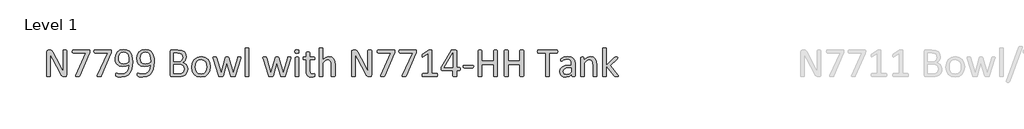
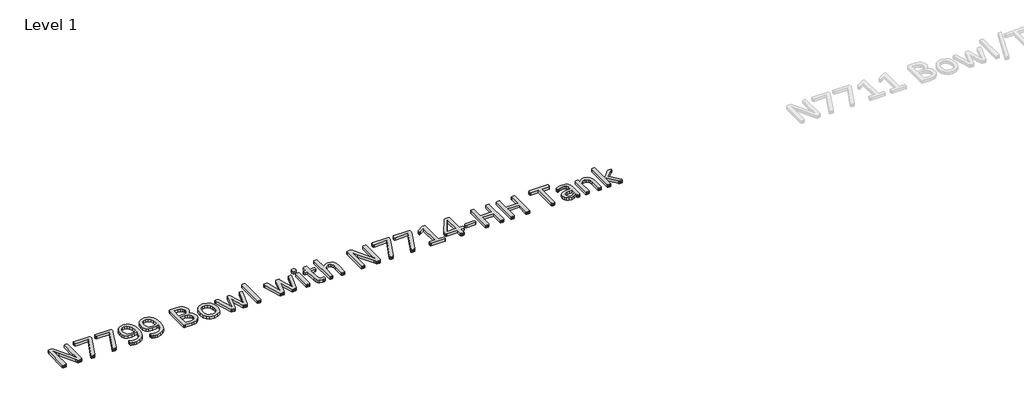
# One storey, part 2 of 3: 1 proxy.
"""IFC4 building model written with IfcOpenShell, lengths in millimetres."""

from ifc_helpers import new_model, si_unit, origin, origin_with_axes, place, context, project, spatial, polyline, outline, extrude, element, save

model = new_model("IFC4")

# Units and contexts
model_context = context("Model", 3, world=origin())
ifc_project = project(units=[si_unit("LENGTHUNIT", "METRE", prefix="MILLI")], contexts=[model_context])

# Site, building, storey
site = spatial("IfcSite", under=ifc_project)
building = spatial("IfcBuilding", under=site)
storey = spatial("IfcBuildingStorey", under=building, Name="Level 1", Elevation=0.0)

# Proxy
placement = place(None, origin())
element("IfcBuildingElementProxy", 1, Name="150MM CALIBRI", ObjectType="150MM CALIBRI", at=placement, inside=storey, context=model_context, shape_type="SweptSolid", body=[
    extrude(outline(polyline([(33502.4142778, -15617.8285664), (33501.6298259, -15621.7059998), (33499.5902511, -15624.3507231), (33496.7662245, -15625.8523881), (33493.6732429, -15626.3006463), (33487.0390216, -15626.3006463), (33481.5926845, -15625.6506719), (33477.1549284, -15623.2749034), (33472.9637143, -15618.5906053), (33468.5707839, -15611.1495192), (33424.1932224, -15526.697675), (33417.2003946, -15512.9809741), (33410.6109991, -15499.0401442), (33410.6109991, -15515.8946524), (33410.6109991, -15533.0181155), (33410.6109991, -15622.6249291), (33410.1179151, -15624.1714198), (33408.4593597, -15625.3144782), (33405.3887911, -15626.0092784), (33400.5251897, -15626.3006463), (33395.6391753, -15626.0092784), (33392.6134325, -15625.3144782), (33391.0221159, -15624.1714198), (33390.5290319, -15622.6249291), (33390.5290319, -15485.5923983), (33393.1737552, -15479.0702416), (33398.956286, -15477.1203184), (33408.8627921, -15477.1203184), (33414.7125616, -15477.7030541), (33418.9261886, -15479.5857385), (33422.5346671, -15483.2390428), (33426.1207327, -15489.1336381), (33460.1883556, -15554.3552057), (33466.2846671, -15566.0099188), (33471.9103075, -15577.1939608), (33477.2894059, -15588.0418092), (33482.5564397, -15598.777593), (33482.3995493, -15579.9507487), (33482.3323106, -15561.1239045), (33482.3323106, -15480.7960356), (33484.4839499, -15478.0840735), (33487.5545186, -15477.3444475), (33492.5525974, -15477.1203184), (33497.2593085, -15477.3444475), (33500.3298772, -15478.0840735), (33501.9211938, -15479.2943707), (33502.4142778, -15617.8285664)])), origin_with_axes(), (0.0, 0.0, 1.0), 15.0),
    extrude(outline(polyline([(33631.5126384, -15485.5475725), (33631.3333352, -15489.2681155), (33630.862664, -15492.4731616), (33630.0557993, -15495.4316657), (33628.8679151, -15498.4574086), (33574.9872798, -15621.8180643), (33573.5528536, -15624.0593553), (33571.3563884, -15625.4265428), (33567.9496261, -15626.121343), (33562.8843085, -15626.3006463), (33556.7431712, -15625.9644526), (33553.560538, -15624.86622), (33552.6864345, -15623.0283614), (33553.5157122, -15620.4284639), (33610.1307224, -15494.3334332), (33538.3645852, -15494.3334332), (33535.0698874, -15492.0473164), (33533.9716548, -15485.68205), (33534.2630227, -15481.8942682), (33535.1371261, -15479.2271319), (33536.5267265, -15477.6358153), (33538.3645852, -15477.1203184), (33625.5059786, -15477.1203184), (33628.3300052, -15477.456512), (33630.1902768, -15478.8236995), (33631.1764448, -15481.44601), (33631.5126384, -15485.5475725)])), origin_with_axes(), (0.0, 0.0, 1.0), 15.0),
    extrude(outline(polyline([(33752.0044417, -15485.5475725), (33751.8251384, -15489.2681155), (33751.3544673, -15492.4731616), (33750.5476026, -15495.4316657), (33749.3597184, -15498.4574086), (33695.4790831, -15621.8180643), (33694.0446569, -15624.0593553), (33691.8481917, -15625.4265428), (33688.4414294, -15626.121343), (33683.3761118, -15626.3006463), (33677.2349745, -15625.9644526), (33674.0523413, -15624.86622), (33673.1782378, -15623.0283614), (33674.0075155, -15620.4284639), (33730.6225257, -15494.3334332), (33658.8563884, -15494.3334332), (33655.5616907, -15492.0473164), (33654.4634581, -15485.68205), (33654.7548259, -15481.8942682), (33655.6289294, -15479.2271319), (33657.0185298, -15477.6358153), (33658.8563884, -15477.1203184), (33745.9977819, -15477.1203184), (33748.8218085, -15477.456512), (33750.68208, -15478.8236995), (33751.6682481, -15481.44601), (33752.0044417, -15485.5475725)])), origin_with_axes(), (0.0, 0.0, 1.0), 15.0),
    extrude(outline(polyline([(33869.6273925, -15545.7934741), (33868.4619212, -15565.5616606), (33864.5172491, -15584.7919373), (33857.0313372, -15602.1171166), (33845.1749079, -15616.2596627), (33828.2083352, -15625.7403235), (33805.3919929, -15629.1694987), (33795.7096159, -15628.4971114), (33787.2151231, -15626.8161432), (33780.8722696, -15624.7093297), (33777.1517265, -15622.4904516), (33775.4707583, -15619.4422959), (33774.9552614, -15614.2873266), (33775.1345647, -15610.1409383), (33775.6500616, -15607.8324086), (33778.2275462, -15606.4428082), (33781.8136118, -15607.3169116), (33787.7082071, -15609.222009), (33796.0458095, -15611.1046934), (33806.7815934, -15611.956384), (33826.1911733, -15607.720344), (33839.4147901, -15596.3345858), (33847.1024181, -15579.7938584), (33849.9040319, -15559.8239557), (33835.3804663, -15566.1668092), (33815.9260606, -15568.9235971), (33795.1492931, -15565.4944219), (33781.6567214, -15556.1258256), (33774.3276999, -15542.0281053), (33772.0864089, -15524.1874291), (33774.9552614, -15505.1588686), (33783.8755995, -15489.2681155), (33799.3180944, -15478.3306155), (33821.7534171, -15474.2514659), (33838.2044929, -15476.6272344), (33850.6436579, -15483.4855848), (33859.563996, -15494.3110202), (33865.4585913, -15508.6776954), (33868.6636374, -15526.0701135), (33869.6273925, -15545.7934741)]), holes=[polyline([(33849.5454253, -15544.583177), (33847.5955022, -15518.2928338), (33841.9026231, -15501.0348932), (33832.6685042, -15491.5318194), (33820.0052102, -15488.5957282), (33807.3419161, -15491.4645807), (33798.7129458, -15499.1522088), (33793.7596927, -15510.0672959), (33792.1683761, -15522.6185254), (33793.6028024, -15535.7973164), (33798.2198618, -15545.9055387), (33806.5350513, -15552.3156309), (33819.1983454, -15554.5793348), (33835.7390729, -15551.8449598), (33849.5454253, -15544.583177)])]), origin_with_axes(), (0.0, 0.0, 1.0), 15.0),
    extrude(outline(polyline([(33990.1191958, -15545.7934741), (33988.9537245, -15565.5616606), (33985.0090524, -15584.7919373), (33977.5231405, -15602.1171166), (33965.6667112, -15616.2596627), (33948.7001384, -15625.7403235), (33925.8837962, -15629.1694987), (33916.2014192, -15628.4971114), (33907.7069263, -15626.8161432), (33901.3640729, -15624.7093297), (33897.6435298, -15622.4904516), (33895.9625616, -15619.4422959), (33895.4470647, -15614.2873266), (33895.6263679, -15610.1409383), (33896.1418649, -15607.8324086), (33898.7193495, -15606.4428082), (33902.3054151, -15607.3169116), (33908.2000104, -15609.222009), (33916.5376128, -15611.1046934), (33927.2733966, -15611.956384), (33946.6829765, -15607.720344), (33959.9065934, -15596.3345858), (33967.5942214, -15579.7938584), (33970.3958352, -15559.8239557), (33955.8722696, -15566.1668092), (33936.4178638, -15568.9235971), (33915.6410964, -15565.4944219), (33902.1485247, -15556.1258256), (33894.8195032, -15542.0281053), (33892.5782122, -15524.1874291), (33895.4470647, -15505.1588686), (33904.3674028, -15489.2681155), (33919.8098977, -15478.3306155), (33942.2452204, -15474.2514659), (33958.6962962, -15476.6272344), (33971.1354612, -15483.4855848), (33980.0557993, -15494.3110202), (33985.9503946, -15508.6776954), (33989.1554407, -15526.0701135), (33990.1191958, -15545.7934741)]), holes=[polyline([(33970.0372286, -15544.583177), (33968.0873054, -15518.2928338), (33962.3944263, -15501.0348932), (33953.1603075, -15491.5318194), (33940.4970134, -15488.5957282), (33927.8337194, -15491.4645807), (33919.2047491, -15499.1522088), (33914.251496, -15510.0672959), (33912.6601794, -15522.6185254), (33914.0946056, -15535.7973164), (33918.7116651, -15545.9055387), (33927.0268546, -15552.3156309), (33939.6901487, -15554.5793348), (33956.2308761, -15551.8449598), (33970.0372286, -15544.583177)])]), origin_with_axes(), (0.0, 0.0, 1.0), 15.0),
    extrude(outline(polyline([(34176.5946056, -15584.11955), (34174.8239858, -15596.8949086), (34169.8483198, -15607.4289762), (34162.1382788, -15615.6096883), (34151.9628177, -15621.5266965), (34139.8374335, -15625.112762), (34125.044913, -15626.3006463), (34086.3602306, -15626.3006463), (34081.4069776, -15624.5076135), (34079.053622, -15618.2319987), (34079.053622, -15485.1889659), (34081.4293905, -15478.9133512), (34086.4498823, -15477.1203184), (34120.338202, -15477.1203184), (34142.2804407, -15479.697803), (34156.5126384, -15487.1837149), (34165.0967829, -15499.2418604), (34167.9880483, -15515.4015684), (34166.7105124, -15525.689094), (34162.9675565, -15534.7663225), (34156.7367675, -15542.2074086), (34148.1302102, -15547.5865069), (34159.2470134, -15551.7328952), (34168.2570032, -15559.4205233), (34174.3533147, -15570.3356104), (34176.5946056, -15584.11955)]), holes=[polyline([(34156.5126384, -15584.2988532), (34154.4058249, -15572.7337918), (34148.2422747, -15564.3513635), (34138.0668136, -15559.1963942), (34122.6691446, -15557.4481873), (34099.1355893, -15557.4481873), (34099.1355893, -15609.0875315), (34127.6896364, -15609.0875315), (34139.478827, -15607.4962149), (34148.3319263, -15602.7895039), (34154.3385862, -15595.034637), (34156.5126384, -15584.2988532)]), polyline([(34147.9060811, -15518.0911176), (34146.4044161, -15508.1846114), (34141.697705, -15500.6762866), (34133.3152768, -15495.9695756), (34119.6209888, -15494.3334332), (34099.1355893, -15494.3334332), (34099.1355893, -15543.103925), (34121.6829765, -15543.103925), (34134.0997286, -15541.0643502), (34141.9218341, -15535.5956002), (34146.4716548, -15527.5717784), (34147.9060811, -15518.0911176)])]), origin_with_axes(), (0.0, 0.0, 1.0), 15.0),
    extrude(outline(polyline([(34302.8241138, -15570.6718041), (34299.5070032, -15594.1829465), (34289.5780841, -15612.69601), (34273.0373567, -15624.8213942), (34250.0192983, -15629.1694987), (34227.8305175, -15625.3368911), (34212.051829, -15614.197675), (34202.6384069, -15596.4466504), (34199.5454253, -15572.7786176), (34202.8177102, -15549.2674752), (34212.6793905, -15530.7768245), (34229.1528792, -15518.7186791), (34252.2157634, -15514.4154004), (34274.4269571, -15518.2480079), (34290.2056456, -15529.3872241), (34299.6638936, -15547.1382487), (34302.8241138, -15570.6718041)]), holes=[polyline([(34282.7421466, -15572.0165786), (34281.1956559, -15556.4396063), (34276.1079253, -15543.5745961), (34266.5376128, -15534.8335612), (34251.4537245, -15531.6285151), (34237.1318751, -15534.5646063), (34227.2701948, -15542.8573829), (34221.510077, -15555.5430899), (34219.6273925, -15571.5683204), (34221.1738833, -15587.2349444), (34226.3064397, -15600.0551289), (34235.9439909, -15608.7513379), (34251.0054663, -15611.956384), (34265.2824899, -15609.0202928), (34275.2114089, -15600.7947549), (34280.9267009, -15588.1538737), (34282.7421466, -15572.0165786)])]), origin_with_axes(), (0.0, 0.0, 1.0), 15.0),
    extrude(outline(polyline([(34473.2967061, -15520.5565377), (34473.072577, -15522.5064608), (34472.2657122, -15525.3080745), (34441.8289806, -15622.2214967), (34440.7307481, -15624.2610715), (34438.6687604, -15625.4937815), (34435.0602819, -15626.121343), (34429.322577, -15626.3006463), (34423.33833, -15626.0765172), (34419.5057224, -15625.4041299), (34417.376496, -15624.1938327), (34416.3230893, -15622.3111483), (34394.6273925, -15549.8277979), (34374.2764704, -15622.3111483), (34373.2006507, -15624.3058973), (34370.9593597, -15625.5386073), (34367.1267522, -15626.1437559), (34361.3218085, -15626.3006463), (34355.494452, -15626.0765172), (34351.8187347, -15625.4041299), (34349.7119212, -15624.1490069), (34348.6809274, -15622.2214967), (34318.4683249, -15525.3080745), (34317.6614602, -15522.5064608), (34317.4373311, -15520.5565377), (34317.8855893, -15518.9428082), (34319.43208, -15517.9118143), (34322.3681712, -15517.3963174), (34326.8507532, -15517.2842528), (34332.0281354, -15517.4635561), (34335.0090524, -15518.0238789), (34336.4883044, -15519.1445243), (34337.2951692, -15520.9151442), (34362.2183249, -15605.1876852), (34385.5277511, -15520.9151442), (34386.312203, -15519.1445243), (34387.8586938, -15518.0238789), (34390.6603075, -15517.4635561), (34395.0756507, -15517.2842528), (34399.6254714, -15517.4635561), (34402.4270852, -15518.0238789), (34403.9287501, -15519.0996985), (34404.6235503, -15520.6910151), (34429.322577, -15605.1876852), (34454.2457327, -15520.9151442), (34454.9853587, -15519.1445243), (34456.5990882, -15518.0238789), (34459.5800052, -15517.4635561), (34464.4660196, -15517.2842528), (34468.8813628, -15517.3963174), (34471.5260862, -15517.9566401), (34472.8932737, -15518.987634), (34473.2967061, -15520.5565377)])), origin_with_axes(), (0.0, 0.0, 1.0), 15.0),
    extrude(outline(polyline([(34517.9880483, -15622.7594065), (34517.4949643, -15624.2834844), (34515.9036477, -15625.381717), (34512.8779048, -15626.0765172), (34507.9022388, -15626.3006463), (34503.0162245, -15626.0765172), (34499.9232429, -15625.381717), (34498.3319263, -15624.2834844), (34498.3319263, -15469.3206258), (34498.3319263, -15467.7068963), (34499.9232429, -15466.5638379), (34503.0162245, -15465.8690377), (34507.9022388, -15465.6449086), (34512.8779048, -15465.8690377), (34515.9036477, -15466.5638379), (34517.4949643, -15467.7068963), (34517.9880483, -15469.3206258), (34517.9880483, -15622.7594065)])), origin_with_axes(), (0.0, 0.0, 1.0), 15.0),
    extrude(outline(polyline([(34751.5753946, -15520.5565377), (34751.3512655, -15522.5064608), (34750.5444007, -15525.3080745), (34720.1076692, -15622.2214967), (34719.0094366, -15624.2610715), (34716.9474489, -15625.4937815), (34713.3389704, -15626.121343), (34707.6012655, -15626.3006463), (34701.6170186, -15626.0765172), (34697.784411, -15625.4041299), (34695.6551845, -15624.1938327), (34694.6017778, -15622.3111483), (34672.9060811, -15549.8277979), (34652.5551589, -15622.3111483), (34651.4793393, -15624.3058973), (34649.2380483, -15625.5386073), (34645.4054407, -15626.1437559), (34639.600497, -15626.3006463), (34633.7731405, -15626.0765172), (34630.0974233, -15625.4041299), (34627.9906097, -15624.1490069), (34626.9596159, -15622.2214967), (34596.7470134, -15525.3080745), (34595.9401487, -15522.5064608), (34595.7160196, -15520.5565377), (34596.1642778, -15518.9428082), (34597.7107686, -15517.9118143), (34600.6468597, -15517.3963174), (34605.1294417, -15517.2842528), (34610.3068239, -15517.4635561), (34613.2877409, -15518.0238789), (34614.7669929, -15519.1445243), (34615.5738577, -15520.9151442), (34640.4970134, -15605.1876852), (34663.8064397, -15520.9151442), (34664.5908915, -15519.1445243), (34666.1373823, -15518.0238789), (34668.938996, -15517.4635561), (34673.3543393, -15517.2842528), (34677.9041599, -15517.4635561), (34680.7057737, -15518.0238789), (34682.2074386, -15519.0996985), (34682.9022388, -15520.6910151), (34707.6012655, -15605.1876852), (34732.5244212, -15520.9151442), (34733.2640472, -15519.1445243), (34734.8777768, -15518.0238789), (34737.8586938, -15517.4635561), (34742.7447081, -15517.2842528), (34747.1600513, -15517.3963174), (34749.8047747, -15517.9566401), (34751.1719622, -15518.987634), (34751.5753946, -15520.5565377)])), origin_with_axes(), (0.0, 0.0, 1.0), 15.0),
    extrude(outline(polyline([(34796.2667368, -15485.5923983), (34793.8013167, -15494.7592784), (34784.6568495, -15497.2022856), (34775.7365114, -15494.8265172), (34773.3159171, -15485.8613532), (34775.7813372, -15476.6944731), (34784.9258044, -15474.2514659), (34793.8461425, -15476.6272344), (34796.2667368, -15485.5923983)])), origin_with_axes(), (0.0, 0.0, 1.0), 15.0),
    extrude(outline(polyline([(34796.2667368, -15622.8042323), (34795.7736528, -15624.3283102), (34794.1823362, -15625.4041299), (34791.1565934, -15626.0765172), (34786.1809274, -15626.3006463), (34781.294913, -15626.0765172), (34778.2019315, -15625.4041299), (34776.6106149, -15624.3283102), (34776.1847696, -15520.7806668), (34778.2019315, -15518.1807692), (34781.294913, -15517.5083819), (34786.1809274, -15517.2842528), (34791.1565934, -15517.5083819), (34794.1823362, -15518.1807692), (34795.7736528, -15519.3238276), (34796.2667368, -15622.8042323)])), origin_with_axes(), (0.0, 0.0, 1.0), 15.0),
    extrude(outline(polyline([(34885.201163, -15615.9907077), (34884.7529048, -15621.5939352), (34883.3857173, -15624.6420909), (34880.6513423, -15626.4799495), (34876.504954, -15627.8919629), (34871.5517009, -15628.8108922), (34866.3294929, -15629.1694987), (34852.6800309, -15626.9954465), (34843.3786733, -15620.4284639), (34838.0892265, -15609.2892477), (34836.4306712, -15593.3536688), (34836.4306712, -15531.6285151), (34822.803622, -15531.6285151), (34820.1813116, -15529.9475469), (34819.2175565, -15524.5012098), (34819.4865114, -15521.1616862), (34820.1813116, -15518.8979823), (34821.32437, -15517.6428594), (34822.8932737, -15517.2842528), (34836.4306712, -15517.2842528), (34836.4306712, -15492.3162713), (34838.4478331, -15489.5818963), (34841.5408147, -15488.8198573), (34846.426829, -15488.5957282), (34851.402495, -15488.8198573), (34854.4282378, -15489.5818963), (34856.0195544, -15490.8146063), (34856.5126384, -15517.2842528), (34881.6150974, -15517.2842528), (34884.2598208, -15518.8979823), (34884.9770339, -15521.1616862), (34885.201163, -15524.5012098), (34884.214995, -15529.9475469), (34881.6150974, -15531.6285151), (34856.5126384, -15531.6285151), (34856.5126384, -15590.081384), (34859.4935554, -15606.4203952), (34863.6567534, -15610.5723868), (34870.1845134, -15611.956384), (34874.6446825, -15611.440887), (34878.1186835, -15610.3650674), (34880.740994, -15609.2668348), (34882.6909171, -15608.728925), (34884.9770339, -15612.3598164), (34885.201163, -15615.9907077)])), origin_with_axes(), (0.0, 0.0, 1.0), 15.0),
    extrude(outline(polyline([(34997.0864089, -15622.7594065), (34996.5933249, -15624.2834844), (34995.0020083, -15625.381717), (34991.9762655, -15626.0765172), (34987.0902511, -15626.3006463), (34982.1145852, -15626.0765172), (34979.0888423, -15625.4041299), (34977.4975257, -15624.3283102), (34977.0044417, -15622.7594065), (34977.0044417, -15562.8721114), (34975.68208, -15548.7968041), (34971.8494724, -15539.5850981), (34965.3273157, -15533.6680899), (34956.0707839, -15531.6285151), (34942.4661477, -15536.626594), (34928.2339499, -15551.30705), (34928.2339499, -15622.7594065), (34927.7408659, -15624.3283102), (34926.1495493, -15625.4041299), (34923.1238065, -15626.0765172), (34918.1481405, -15626.3006463), (34913.2621261, -15626.0765172), (34910.1691446, -15625.381717), (34908.577828, -15624.2834844), (34908.577828, -15469.3206258), (34908.577828, -15467.7068963), (34910.1691446, -15466.5638379), (34913.2621261, -15465.8690377), (34918.1481405, -15465.6449086), (34923.1238065, -15465.8690377), (34926.1495493, -15466.5638379), (34927.7408659, -15467.7293092), (34928.2339499, -15469.3206258), (34928.2339499, -15531.3595602), (34944.371245, -15518.5842016), (34960.7326692, -15514.4154004), (34977.8561323, -15517.9118143), (34989.0850001, -15527.2579977), (34995.2261374, -15540.9522856), (34997.0864089, -15559.9136073), (34997.0864089, -15622.7594065)])), origin_with_axes(), (0.0, 0.0, 1.0), 15.0),
    extrude(outline(polyline([(35200.7749335, -15617.8285664), (35199.9904817, -15621.7059998), (35197.9509069, -15624.3507231), (35195.1268802, -15625.8523881), (35192.0338987, -15626.3006463), (35185.3996774, -15626.3006463), (35179.9533403, -15625.6506719), (35175.5155841, -15623.2749034), (35171.32437, -15618.5906053), (35166.9314397, -15611.1495192), (35122.5538782, -15526.697675), (35115.5610503, -15512.9809741), (35108.9716548, -15499.0401442), (35108.9716548, -15515.8946524), (35108.9716548, -15533.0181155), (35108.9716548, -15622.6249291), (35108.4785708, -15624.1714198), (35106.8200155, -15625.3144782), (35103.7494468, -15626.0092784), (35098.8858454, -15626.3006463), (35093.9998311, -15626.0092784), (35090.9740882, -15625.3144782), (35089.3827716, -15624.1714198), (35088.8896876, -15622.6249291), (35088.8896876, -15485.5923983), (35091.534411, -15479.0702416), (35097.3169417, -15477.1203184), (35107.2234479, -15477.1203184), (35113.0732173, -15477.7030541), (35117.2868444, -15479.5857385), (35120.8953229, -15483.2390428), (35124.4813884, -15489.1336381), (35158.5490114, -15554.3552057), (35164.6453229, -15566.0099188), (35170.2709632, -15577.1939608), (35175.6500616, -15588.0418092), (35180.9170954, -15598.777593), (35180.760205, -15579.9507487), (35180.6929663, -15561.1239045), (35180.6929663, -15480.7960356), (35182.8446056, -15478.0840735), (35185.9151743, -15477.3444475), (35190.9132532, -15477.1203184), (35195.6199643, -15477.3444475), (35198.6905329, -15478.0840735), (35200.2818495, -15479.2943707), (35200.7749335, -15617.8285664)])), origin_with_axes(), (0.0, 0.0, 1.0), 15.0),
    extrude(outline(polyline([(35329.8732942, -15485.5475725), (35329.6939909, -15489.2681155), (35329.2233198, -15492.4731616), (35328.416455, -15495.4316657), (35327.2285708, -15498.4574086), (35273.3479356, -15621.8180643), (35271.9135093, -15624.0593553), (35269.7170442, -15625.4265428), (35266.3102819, -15626.121343), (35261.2449643, -15626.3006463), (35255.103827, -15625.9644526), (35251.9211938, -15624.86622), (35251.0470903, -15623.0283614), (35251.8763679, -15620.4284639), (35308.4913782, -15494.3334332), (35236.7252409, -15494.3334332), (35233.4305431, -15492.0473164), (35232.3323106, -15485.68205), (35232.6236784, -15481.8942682), (35233.4977819, -15479.2271319), (35234.8873823, -15477.6358153), (35236.7252409, -15477.1203184), (35323.8666343, -15477.1203184), (35326.690661, -15477.456512), (35328.5509325, -15478.8236995), (35329.5371005, -15481.44601), (35329.8732942, -15485.5475725)])), origin_with_axes(), (0.0, 0.0, 1.0), 15.0),
    extrude(outline(polyline([(35450.3650974, -15485.5475725), (35450.1857942, -15489.2681155), (35449.7151231, -15492.4731616), (35448.9082583, -15495.4316657), (35447.7203741, -15498.4574086), (35393.8397388, -15621.8180643), (35392.4053126, -15624.0593553), (35390.2088474, -15625.4265428), (35386.8020852, -15626.121343), (35381.7367675, -15626.3006463), (35375.5956302, -15625.9644526), (35372.412997, -15624.86622), (35371.5388936, -15623.0283614), (35372.3681712, -15620.4284639), (35428.9831815, -15494.3334332), (35357.2170442, -15494.3334332), (35353.9223464, -15492.0473164), (35352.8241138, -15485.68205), (35353.1154817, -15481.8942682), (35353.9895852, -15479.2271319), (35355.3791856, -15477.6358153), (35357.2170442, -15477.1203184), (35444.3584376, -15477.1203184), (35447.1824643, -15477.456512), (35449.0427358, -15478.8236995), (35450.0289038, -15481.44601), (35450.3650974, -15485.5475725)])), origin_with_axes(), (0.0, 0.0, 1.0), 15.0),
    extrude(outline(polyline([(35567.9880483, -15617.8285664), (35567.6518546, -15621.8180643), (35566.7329253, -15624.4403748), (35565.4105636, -15625.874801), (35563.8640729, -15626.3006463), (35486.0464499, -15626.3006463), (35483.2448362, -15624.4403748), (35482.2586681, -15621.8180643), (35481.9224745, -15617.8285664), (35482.2586681, -15613.9511329), (35483.1103587, -15611.2615838), (35484.3430688, -15609.6478543), (35485.9567983, -15609.0875315), (35516.348704, -15609.0875315), (35516.348704, -15497.2022856), (35488.6911733, -15514.4154004), (35485.3068239, -15515.7825879), (35483.2448362, -15515.2670909), (35482.1914294, -15512.8240838), (35481.9224745, -15508.543218), (35482.0793649, -15505.2709332), (35482.5724489, -15503.0072293), (35483.5137911, -15501.4159127), (35485.1499335, -15500.0711381), (35518.1865626, -15478.465093), (35521.1226538, -15477.478925), (35523.565661, -15477.1875571), (35527.0620749, -15477.1203184), (35531.7463731, -15477.3444475), (35534.6600513, -15477.972009), (35536.0720647, -15479.0030028), (35536.0720647, -15609.0875315), (35563.7744212, -15609.0875315), (35565.5226282, -15609.6478543), (35566.8674028, -15611.2615838), (35567.6966804, -15613.9511329), (35567.9880483, -15617.8285664)])), origin_with_axes(), (0.0, 0.0, 1.0), 15.0),
    extrude(outline(polyline([(35695.2933761, -15583.2678594), (35694.1279048, -15589.565887), (35690.9004458, -15591.8744168), (35674.1355893, -15591.8744168), (35674.1355893, -15622.7594065), (35673.6649181, -15624.3283102), (35671.9839499, -15625.4041299), (35668.8461425, -15626.0765172), (35663.9153024, -15626.3006463), (35659.1189397, -15626.0765172), (35656.048371, -15625.4041299), (35654.4794673, -15624.3283102), (35654.053622, -15622.7594065), (35654.053622, -15591.8744168), (35593.3146364, -15591.8744168), (35591.0285196, -15591.5158102), (35589.3923772, -15590.1934485), (35588.3613833, -15587.4366606), (35588.0700155, -15582.7747754), (35588.18208, -15578.6956258), (35588.6303382, -15575.400928), (35589.5492675, -15572.5320756), (35590.8940421, -15569.5959844), (35643.8333352, -15480.6167323), (35645.5367163, -15479.0478286), (35648.4503946, -15477.9271832), (35652.8433249, -15477.2996217), (35658.9844622, -15477.1203184), (35665.7979868, -15477.4116862), (35670.4822849, -15478.1513123), (35673.194247, -15479.3391965), (35674.1355893, -15481.0649905), (35674.1355893, -15574.661302), (35690.9004458, -15574.661302), (35694.083079, -15576.7905284), (35695.2933761, -15583.2678594)]), holes=[polyline([(35654.053622, -15494.378259), (35606.089995, -15574.661302), (35654.053622, -15574.661302), (35654.053622, -15494.378259)])]), origin_with_axes(), (0.0, 0.0, 1.0), 15.0),
    extrude(outline(polyline([(35768.8077204, -15570.3131975), (35767.7543136, -15575.9612508), (35764.683745, -15577.5301545), (35715.6442983, -15577.5301545), (35712.484078, -15575.916425), (35711.4306712, -15570.3131975), (35712.484078, -15564.7547959), (35715.6442983, -15563.1858922), (35764.683745, -15563.1858922), (35766.3871261, -15563.4996729), (35767.6870749, -15564.70997), (35768.5163526, -15566.951261), (35768.8077204, -15570.3131975)])), origin_with_axes(), (0.0, 0.0, 1.0), 15.0),
    extrude(outline(polyline([(35900.7749335, -15622.6249291), (35900.3042624, -15624.2386586), (35898.66812, -15625.3144782), (35895.5527255, -15626.0092784), (35890.7787757, -15626.3006463), (35885.8479356, -15626.0092784), (35882.7997798, -15625.3368911), (35881.1636374, -15624.2610715), (35880.6929663, -15622.6697549), (35880.6929663, -15557.4481873), (35814.7093597, -15557.4481873), (35814.7093597, -15622.6697549), (35814.2386886, -15624.2610715), (35812.6025462, -15625.3368911), (35809.5095647, -15626.0092784), (35804.6683761, -15626.3006463), (35799.8720134, -15626.0092784), (35796.7342061, -15625.3144782), (35795.0980636, -15624.2386586), (35794.6273925, -15622.6249291), (35794.6273925, -15480.7960356), (35795.0980636, -15479.1823061), (35796.7342061, -15478.1064864), (35799.8720134, -15477.4116862), (35804.6683761, -15477.1203184), (35809.5095647, -15477.4116862), (35812.6025462, -15478.1064864), (35814.2386886, -15479.1823061), (35814.7093597, -15480.7960356), (35814.7093597, -15540.2350725), (35880.6929663, -15540.2350725), (35880.6929663, -15480.7960356), (35881.1636374, -15479.1823061), (35882.7997798, -15478.1064864), (35885.8479356, -15477.4116862), (35890.7787757, -15477.1203184), (35895.5527255, -15477.4116862), (35898.66812, -15478.1064864), (35900.3042624, -15479.1823061), (35900.7749335, -15480.7960356), (35900.7749335, -15622.6249291)])), origin_with_axes(), (0.0, 0.0, 1.0), 15.0),
    extrude(outline(polyline([(36047.0864089, -15622.6249291), (36046.6157378, -15624.2386586), (36044.9795954, -15625.3144782), (36041.8642009, -15626.0092784), (36037.0902511, -15626.3006463), (36032.159411, -15626.0092784), (36029.1112552, -15625.3368911), (36027.4751128, -15624.2610715), (36027.0044417, -15622.6697549), (36027.0044417, -15557.4481873), (35961.0208352, -15557.4481873), (35961.0208352, -15622.6697549), (35960.550164, -15624.2610715), (35958.9140216, -15625.3368911), (35955.8210401, -15626.0092784), (35950.9798515, -15626.3006463), (35946.1834888, -15626.0092784), (35943.0456815, -15625.3144782), (35941.409539, -15624.2386586), (35940.9388679, -15622.6249291), (35940.9388679, -15480.7960356), (35941.409539, -15479.1823061), (35943.0456815, -15478.1064864), (35946.1834888, -15477.4116862), (35950.9798515, -15477.1203184), (35955.8210401, -15477.4116862), (35958.9140216, -15478.1064864), (35960.550164, -15479.1823061), (35961.0208352, -15480.7960356), (35961.0208352, -15540.2350725), (36027.0044417, -15540.2350725), (36027.0044417, -15480.7960356), (36027.4751128, -15479.1823061), (36029.1112552, -15478.1064864), (36032.159411, -15477.4116862), (36037.0902511, -15477.1203184), (36041.8642009, -15477.4116862), (36044.9795954, -15478.1064864), (36046.6157378, -15479.1823061), (36047.0864089, -15480.7960356), (36047.0864089, -15622.6249291)])), origin_with_axes(), (0.0, 0.0, 1.0), 15.0),
    extrude(outline(polyline([(36236.4306712, -15485.8613532), (36236.2065421, -15489.7387866), (36235.4669161, -15492.38351), (36234.1893802, -15493.862762), (36232.5308249, -15494.3334332), (36190.5290319, -15494.3334332), (36190.5290319, -15622.6249291), (36190.0583608, -15624.2386586), (36188.4222184, -15625.3144782), (36185.3292368, -15626.0092784), (36180.4880483, -15626.3006463), (36175.6916856, -15626.0092784), (36172.5538782, -15625.3144782), (36170.9177358, -15624.2386586), (36170.4470647, -15622.6249291), (36170.4470647, -15494.3334332), (36128.4452716, -15494.3334332), (36126.7867163, -15493.862762), (36125.5764192, -15492.38351), (36124.8367931, -15489.7387866), (36124.5454253, -15485.8613532), (36124.8367931, -15481.8942682), (36125.5988321, -15479.1150674), (36126.8091292, -15477.5909895), (36128.4900974, -15477.1203184), (36232.4859991, -15477.1203184), (36234.1669673, -15477.5909895), (36235.4445032, -15479.1150674), (36236.2065421, -15481.8942682), (36236.4306712, -15485.8613532)])), origin_with_axes(), (0.0, 0.0, 1.0), 15.0),
    extrude(outline(polyline([(36333.9716548, -15622.8490582), (36332.9854868, -15624.9334588), (36330.2959376, -15625.9644526), (36325.2754458, -15626.3006463), (36320.1877153, -15625.9644526), (36317.4309274, -15624.9334588), (36316.5792368, -15622.8490582), (36316.5792368, -15612.5391196), (36301.4729356, -15624.4627877), (36283.8115626, -15629.1694987), (36268.9966292, -15627.0402723), (36257.7229356, -15620.8767221), (36250.4835657, -15610.9702159), (36247.9060811, -15597.6121217), (36251.4697337, -15582.4161688), (36261.6900206, -15571.7027979), (36277.9842061, -15565.3151186), (36299.6799028, -15563.1858922), (36313.8896876, -15563.1858922), (36313.8896876, -15554.6241606), (36312.6345647, -15543.4177057), (36308.6002409, -15535.3042323), (36301.4056968, -15530.418218), (36290.5354356, -15528.7596627), (36278.0962706, -15530.5526954), (36268.4587194, -15534.4973676), (36261.5331302, -15538.4420397), (36257.4091548, -15540.2350725), (36255.7954253, -15539.7644014), (36254.6075411, -15538.3299752), (36253.8679151, -15535.8645551), (36253.643786, -15532.5698573), (36254.0472184, -15527.8631463), (36256.0195544, -15524.5684485), (36261.3986528, -15521.206512), (36270.1845134, -15517.8894014), (36281.0547747, -15515.4015684), (36292.9560298, -15514.4154004), (36312.0070032, -15516.9480592), (36324.7151231, -15524.3443194), (36331.7751897, -15536.4248778), (36333.9716548, -15553.279386), (36333.9716548, -15622.8490582)]), holes=[polyline([(36313.8896876, -15577.5301545), (36297.9316958, -15577.5301545), (36284.6184274, -15578.8525161), (36275.2274181, -15582.7523625), (36269.7362552, -15588.9383256), (36267.9880483, -15597.2535151), (36273.0085401, -15610.0736995), (36287.0838474, -15614.8252364), (36300.7108966, -15611.0374547), (36313.8896876, -15599.4499803), (36313.8896876, -15577.5301545)])]), origin_with_axes(), (0.0, 0.0, 1.0), 15.0),
    extrude(outline(polyline([(36454.4634581, -15622.7594065), (36453.9703741, -15624.2834844), (36452.3790575, -15625.381717), (36449.3533147, -15626.0765172), (36444.4673003, -15626.3006463), (36439.4916343, -15626.0765172), (36436.4658915, -15625.4041299), (36434.8745749, -15624.3283102), (36434.3814909, -15622.7594065), (36434.3814909, -15562.8721114), (36433.0591292, -15548.7968041), (36429.2265216, -15539.5850981), (36422.7043649, -15533.6680899), (36413.4478331, -15531.6285151), (36399.8431968, -15536.626594), (36385.6109991, -15551.30705), (36385.6109991, -15622.7594065), (36385.1179151, -15624.3283102), (36383.5265985, -15625.4041299), (36380.5008556, -15626.0765172), (36375.5251897, -15626.3006463), (36370.6391753, -15626.0765172), (36367.5461938, -15625.4041299), (36365.9548772, -15624.3283102), (36365.5290319, -15520.7806668), (36367.3444776, -15518.1359434), (36370.1460913, -15517.4635561), (36374.6734991, -15517.2842528), (36379.1112552, -15517.4635561), (36381.8456302, -15518.1359434), (36383.2576436, -15519.2565889), (36383.6834888, -15534.2732385), (36400.8293649, -15519.1893502), (36418.0648925, -15514.4154004), (36435.1883556, -15517.9118143), (36446.4396364, -15527.2579977), (36452.6031866, -15540.9522856), (36454.4634581, -15559.8239557), (36454.4634581, -15622.7594065)])), origin_with_axes(), (0.0, 0.0, 1.0), 15.0),
    extrude(outline(polyline([(36574.9552614, -15622.6697549), (36574.4845903, -15624.2610715), (36572.9380995, -15625.4041299), (36569.9123567, -15626.0765172), (36564.9591036, -15626.3006463), (36559.8489602, -15626.121343), (36556.4421979, -15625.5610202), (36554.2009069, -15624.4403748), (36552.6320032, -15622.6697549), (36508.9716548, -15566.2340479), (36508.9716548, -15622.8042323), (36508.4785708, -15624.3283102), (36506.8872542, -15625.4041299), (36503.8615114, -15626.0765172), (36498.8858454, -15626.3006463), (36493.9998311, -15626.0765172), (36490.9068495, -15625.381717), (36489.3155329, -15624.2834844), (36489.3155329, -15469.3206258), (36489.3155329, -15467.7068963), (36490.9068495, -15466.5638379), (36493.9998311, -15465.8690377), (36498.8858454, -15465.6449086), (36503.8615114, -15465.8690377), (36506.8872542, -15466.5638379), (36508.4785708, -15467.7293092), (36508.9716548, -15469.3654516), (36508.9716548, -15563.6341504), (36548.8666343, -15521.228925), (36550.8613833, -15519.3686534), (36553.3716292, -15518.1359434), (36556.8232173, -15517.4635561), (36561.6419929, -15517.2842528), (36566.5728331, -15517.4635561), (36569.7778792, -15518.0238789), (36571.5484991, -15519.0324598), (36572.0864089, -15520.6910151), (36571.3019571, -15523.4029772), (36568.6796466, -15526.5631975), (36529.053622, -15563.4996729), (36572.1312347, -15617.3354823), (36574.305287, -15620.4508768), (36574.9552614, -15622.6697549)])), origin_with_axes(), (0.0, 0.0, 1.0), 15.0),
])

save(model, "model.ifc")
